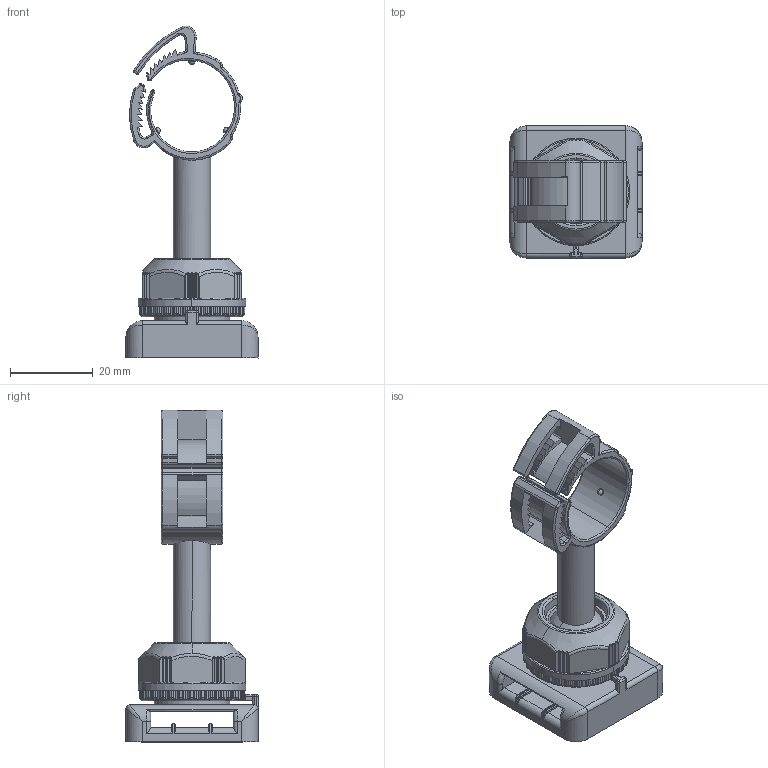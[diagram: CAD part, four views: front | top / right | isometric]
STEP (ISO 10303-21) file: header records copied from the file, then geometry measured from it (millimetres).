
FILE_DESCRIPTION(('Creo Elements/Direct Modeling STEP Export'),'2;1');
FILE_NAME('H22-0005-CL902-00_CH-TMH2.stp','2023-06-07T14:35:28',(''),(''),'Creo Elements/Direct Modeling STEP processor for AP214 (Solid Model)','Creo Elements/Direct Modeling 20.3B 05-Dec-2020 (C) Parametric Technology GmbH','');
FILE_SCHEMA(('AUTOMOTIVE_DESIGN { 1 0 10303 214 1 1 1 1 }'));
Length unit declared in the file: millimetre
Products named in the file (4): Holder; Dome nut; Fixing base; CH-TMH2
Assembly tree (3 placements, depth 2):
  CH-TMH2
    Fixing base
    Dome nut
    Holder
Bounding box: 32 x 32 x 80.39 mm (x, y, z)
Volume: 15210.3 mm3; surface area: 13457.7 mm2
Topology: 3 solids, 3 shells, 1135 faces, 2955 edges, 1812 vertices
Faces by surface type: cylinder 357, plane 319, bspline 248, torus 175, sphere 24, cone 12
Entity records: 60428 total; most frequent: CARTESIAN_POINT 35122, ORIENTED_EDGE 5858, DIRECTION 4410, EDGE_CURVE 2929, VERTEX_POINT 1812, AXIS2_PLACEMENT_3D 1697, EDGE_LOOP 1157, FACE_OUTER_BOUND 1135
